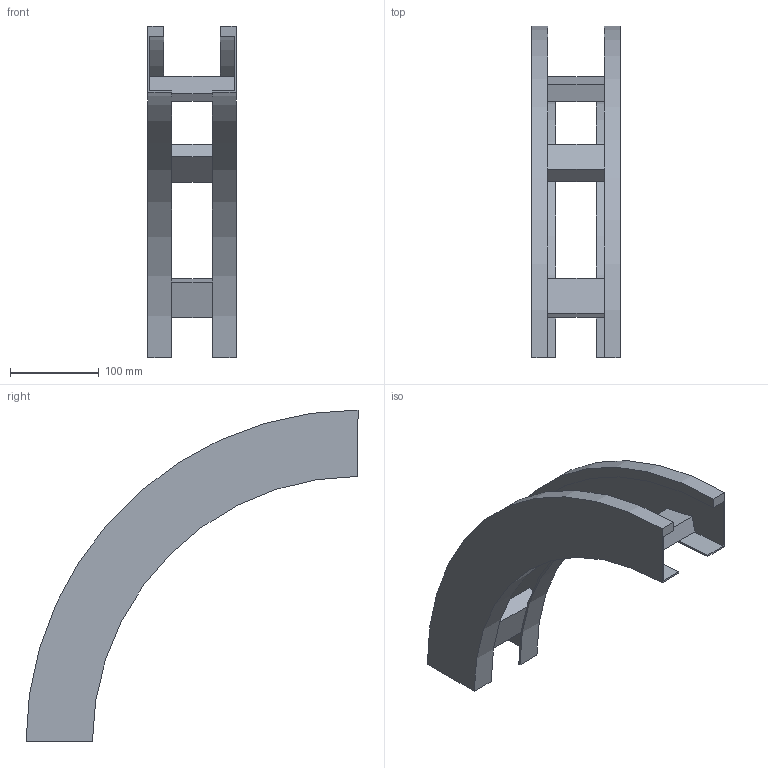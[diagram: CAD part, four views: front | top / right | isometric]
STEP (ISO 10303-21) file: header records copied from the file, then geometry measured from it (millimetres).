
FILE_DESCRIPTION (( 'STEP AP214' ), '1' );
FILE_NAME ('B2_33B3C100.step', '2025-02-21T15:05:53', ( '' ), ( '' ), 'SwSTEP 2.0', 'SolidWorks 2023', '' );
FILE_SCHEMA (( 'AUTOMOTIVE_DESIGN' ));
Length unit declared in the file: millimetre
Products named in the file (3): B2_33B3C100; B2_LONGH.DISCESA_90°_H75_R300; TRAVERSINO_100
Assembly tree (5 placements, depth 2):
  B2_33B3C100
    B2_LONGH.DISCESA_90°_H75_R300  x2
    TRAVERSINO_100  x3
Bounding box: 100 x 375 x 375 mm (x, y, z)
Volume: 662179.7 mm3; surface area: 288937.2 mm2
Topology: 5 solids, 5 shells, 38 faces, 84 edges, 56 vertices
Faces by surface type: plane 30, cylinder 8
Entity records: 560 total; most frequent: DIRECTION 92, CARTESIAN_POINT 84, ORIENTED_EDGE 72, EDGE_CURVE 36, AXIS2_PLACEMENT_3D 32, VECTOR 28, LINE 28, VERTEX_POINT 24
